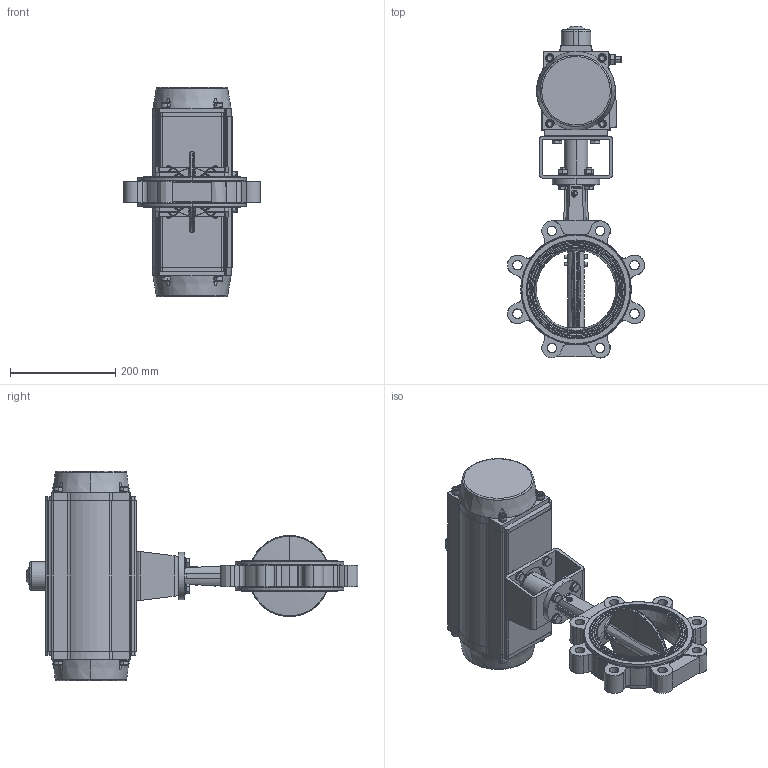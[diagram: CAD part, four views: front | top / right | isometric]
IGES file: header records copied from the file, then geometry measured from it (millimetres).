
Start section: SolidWorks IGES file using analytic representation for surfaces
Global section: file name: H:\BE BIBLIOTHEQUE 3D\BE SECTION 01 - ROBINETS A PAPILLON_VANNES PASSAGE DIRECTE\VP - Vanne Papillon\VPG\VPG4XXX-N07\LUG\DN150\VPG464X-N07XX0150.igs; native system: SolidWorks 2020; preprocessor: SolidWorks 2020; author: k.gigout; date: 220607.082625; units: millimetre
Bounding box: 260.65 x 631.29 x 398 mm (x, y, z)
Surface area: 646065.2 mm2 (no closed solid volume)
Topology: 0 solids, 0 shells, 891 faces, 22785 edges, 22781 vertices
Faces by surface type: bspline 464, revolution 427
